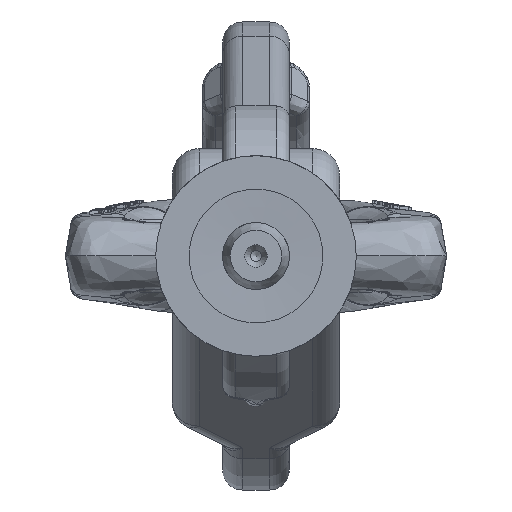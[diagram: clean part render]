
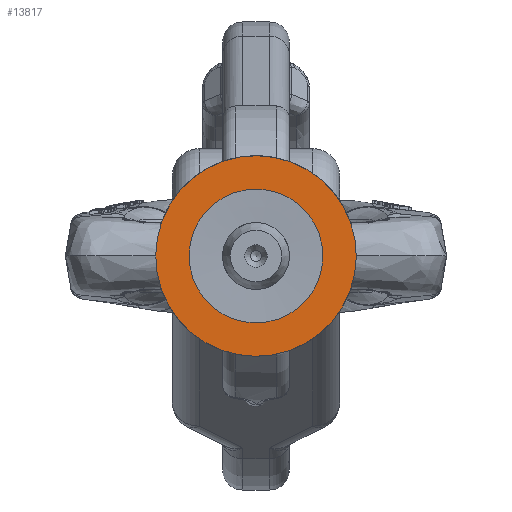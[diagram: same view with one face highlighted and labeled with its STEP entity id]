
A CAD part, front view. The second image highlights one B-rep face of the part: STEP entity #13817.
In plain terms, the highlighted planar face has unit normal (0, -1, 0) as drawn and (0, 0, -1) by its records, which use the part's own axes.
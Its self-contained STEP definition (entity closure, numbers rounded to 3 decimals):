
#322=FACE_BOUND('',#2775,.T.);
#843=CIRCLE('',#14874,15.);
#850=CIRCLE('',#14888,10.);
#1114=PLANE('',#14891);
#1880=FACE_OUTER_BOUND('',#2774,.T.);
#2774=EDGE_LOOP('',(#11929));
#2775=EDGE_LOOP('',(#11930));
#6134=VERTEX_POINT('',#46983);
#6141=VERTEX_POINT('',#47004);
#8106=EDGE_CURVE('',#6134,#6134,#843,.T.);
#8113=EDGE_CURVE('',#6141,#6141,#850,.T.);
#11929=ORIENTED_EDGE('',*,*,#8106,.T.);
#11930=ORIENTED_EDGE('',*,*,#8113,.F.);
#13817=ADVANCED_FACE('',(#1880,#322),#1114,.F.);
#14874=AXIS2_PLACEMENT_3D('',#46984,#17175,#17176);
#14888=AXIS2_PLACEMENT_3D('',#47005,#17203,#17204);
#14891=AXIS2_PLACEMENT_3D('',#47009,#17209,#17210);
#17175=DIRECTION('center_axis',(0.,0.,-1.));
#17176=DIRECTION('ref_axis',(-1.,0.,0.));
#17203=DIRECTION('center_axis',(0.,0.,-1.));
#17204=DIRECTION('ref_axis',(-1.,0.,0.));
#17209=DIRECTION('center_axis',(0.,0.,1.));
#17210=DIRECTION('ref_axis',(1.,0.,0.));
#46983=CARTESIAN_POINT('',(15.,0.,0.));
#46984=CARTESIAN_POINT('Origin',(0.,0.,0.));
#47004=CARTESIAN_POINT('',(10.,0.,0.));
#47005=CARTESIAN_POINT('Origin',(0.,0.,0.));
#47009=CARTESIAN_POINT('Origin',(0.,0.,0.));
